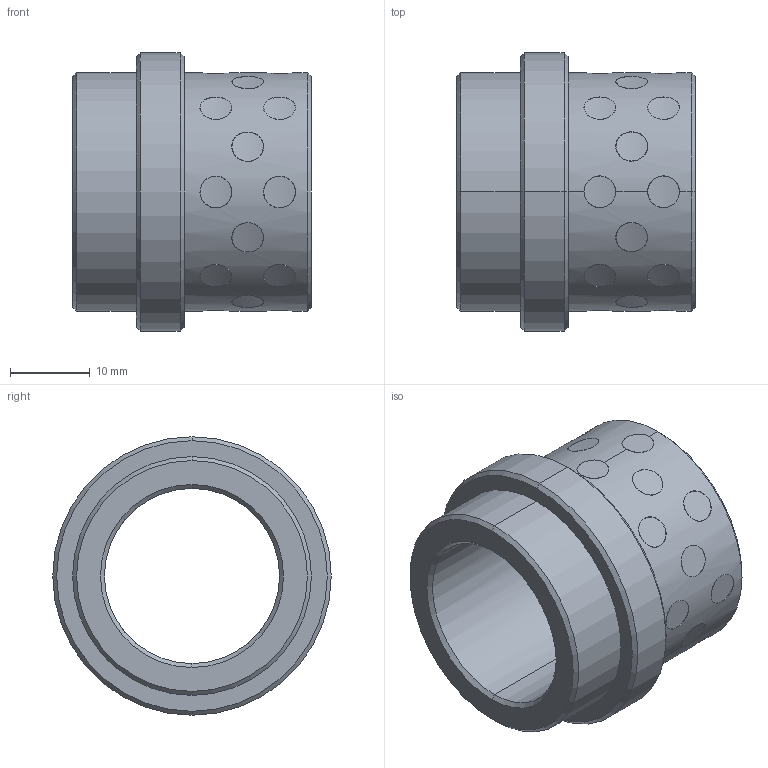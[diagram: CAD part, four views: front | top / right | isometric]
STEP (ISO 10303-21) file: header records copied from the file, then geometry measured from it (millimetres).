
FILE_DESCRIPTION((''),'2;1');
FILE_NAME('G31222022','2017-12-30T',('MANU'),(''),'PRO/ENGINEER BY PARAMETRIC TECHNOLOGY CORPORATION, 2012130','PRO/ENGINEER BY PARAMETRIC TECHNOLOGY CORPORATION, 2012130','');
FILE_SCHEMA(('CONFIG_CONTROL_DESIGN'));
Length unit declared in the file: millimetre
Products named in the file (1): G31222022
Bounding box: 30 x 35 x 35 mm (x, y, z)
Volume: 11235.1 mm3; surface area: 8395.5 mm2
Topology: 25 solids, 25 shells, 168 faces, 360 edges, 236 vertices
Faces by surface type: cylinder 152, cone 12, plane 4
Entity records: 7498 total; most frequent: CARTESIAN_POINT 4132, ORIENTED_EDGE 720, DIRECTION 516, EDGE_CURVE 360, VERTEX_POINT 236, EDGE_LOOP 212, B_SPLINE_CURVE_WITH_KNOTS 208, AXIS2_PLACEMENT_3D 196
